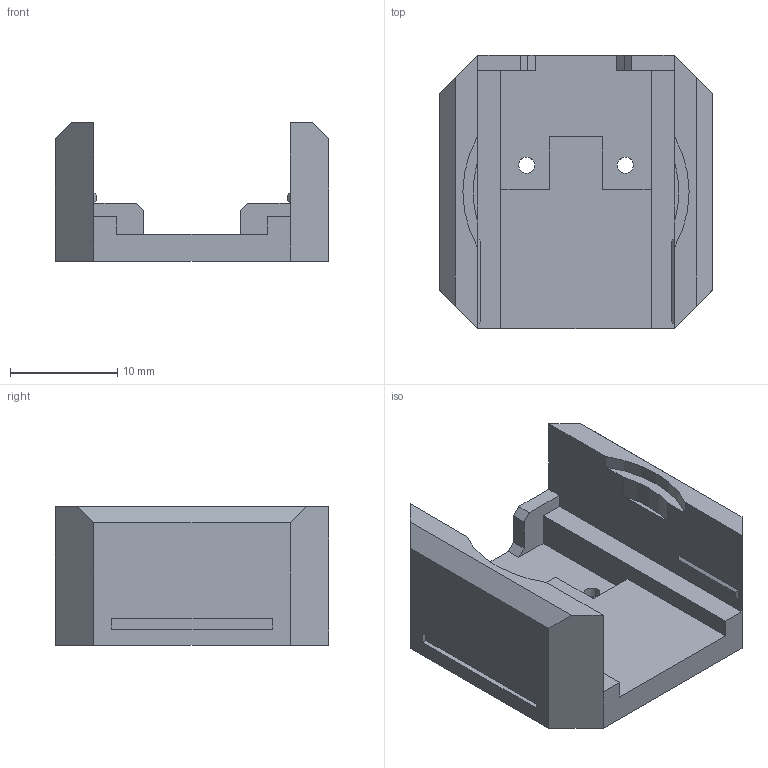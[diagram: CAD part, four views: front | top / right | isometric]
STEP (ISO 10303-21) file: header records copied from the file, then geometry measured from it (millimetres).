
FILE_DESCRIPTION((''),'2;1');
FILE_NAME('tinytouch-supermini-v2-bottom.step','1970-01-01T00:00:00Z',(''),(''),'','','');
FILE_SCHEMA (('AUTOMOTIVE_DESIGN { 1 0 10303 214 3 1 1 }'));
Length unit declared in the file: millimetre
Products named in the file (1): tinytouch-supermini-v2-bottom
Bounding box: 25.5 x 25.5 x 12.92 mm (x, y, z)
Volume: 3111.3 mm3; surface area: 2726.4 mm2
Topology: 1 solids, 1 shells, 66 faces, 176 edges, 116 vertices
Faces by surface type: plane 60, cylinder 6
Full cylindrical faces by diameter (mm): 1.5 x2
Entity records: 2050 total; most frequent: CARTESIAN_POINT 359, ORIENTED_EDGE 352, DIRECTION 322, EDGE_CURVE 176, LINE 164, VECTOR 164, VERTEX_POINT 116, AXIS2_PLACEMENT_3D 79
